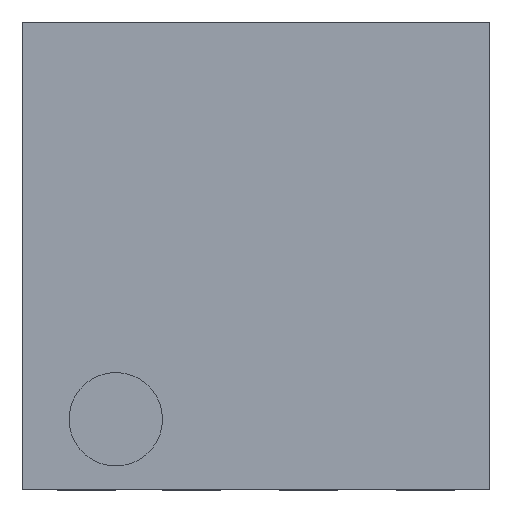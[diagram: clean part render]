
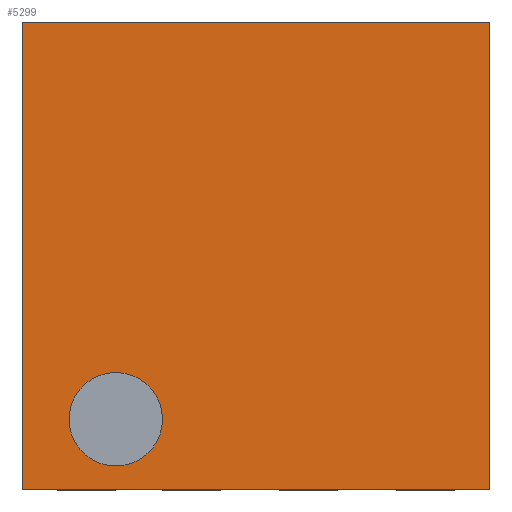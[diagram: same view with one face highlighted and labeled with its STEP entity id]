
A CAD part, top view. The second image highlights one B-rep face of the part: STEP entity #5299.
In plain terms, the highlighted planar face has unit normal (0, 0, 1).
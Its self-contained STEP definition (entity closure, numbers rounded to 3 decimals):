
#62 = DIRECTION ( 'NONE',  ( 0., 0., -1. ) ) ;
#123 = DIRECTION ( 'NONE',  ( 0., -1., 0. ) ) ;
#241 = AXIS2_PLACEMENT_3D ( 'NONE', #2401, #4164, #1179 ) ;
#656 = CIRCLE ( 'NONE', #851, 0.2 ) ;
#851 = AXIS2_PLACEMENT_3D ( 'NONE', #2602, #62, #3043 ) ;
#1037 = LINE ( 'NONE', #4053, #5502 ) ;
#1082 = CIRCLE ( 'NONE', #2119, 0.2 ) ;
#1179 = DIRECTION ( 'NONE',  ( 1., 0., 0. ) ) ;
#1229 = EDGE_LOOP ( 'NONE', ( #1951, #4814, #1411, #4426 ) ) ;
#1245 = VERTEX_POINT ( 'NONE', #1890 ) ;
#1411 = ORIENTED_EDGE ( 'NONE', *, *, #5270, .T. ) ;
#1438 = DIRECTION ( 'NONE',  ( 1., 0., 0. ) ) ;
#1493 = DIRECTION ( 'NONE',  ( 0., 1., 0. ) ) ;
#1682 = VERTEX_POINT ( 'NONE', #3417 ) ;
#1784 = CARTESIAN_POINT ( 'NONE',  ( -2., 1., 1.6 ) ) ;
#1890 = CARTESIAN_POINT ( 'NONE',  ( -1.4, 0.3, 1.6 ) ) ;
#1902 = EDGE_CURVE ( 'NONE', #5379, #2607, #2416, .T. ) ;
#1925 = EDGE_CURVE ( 'NONE', #4470, #5379, #1037, .T. ) ;
#1951 = ORIENTED_EDGE ( 'NONE', *, *, #1925, .T. ) ;
#1954 = ORIENTED_EDGE ( 'NONE', *, *, #2415, .T. ) ;
#1974 = CARTESIAN_POINT ( 'NONE',  ( 0., 2., 1.6 ) ) ;
#2009 = FACE_BOUND ( 'NONE', #2529, .T. ) ;
#2073 = CARTESIAN_POINT ( 'NONE',  ( 0., 0., 1.6 ) ) ;
#2119 = AXIS2_PLACEMENT_3D ( 'NONE', #2807, #2302, #3178 ) ;
#2220 = ORIENTED_EDGE ( 'NONE', *, *, #4265, .T. ) ;
#2302 = DIRECTION ( 'NONE',  ( 0., 0., -1. ) ) ;
#2401 = CARTESIAN_POINT ( 'NONE',  ( -1., 1., 1.6 ) ) ;
#2415 = EDGE_CURVE ( 'NONE', #1245, #1682, #656, .T. ) ;
#2416 = LINE ( 'NONE', #3993, #3244 ) ;
#2421 = CARTESIAN_POINT ( 'NONE',  ( -1., 2., 1.6 ) ) ;
#2462 = LINE ( 'NONE', #1784, #3148 ) ;
#2529 = EDGE_LOOP ( 'NONE', ( #1954, #2220 ) ) ;
#2602 = CARTESIAN_POINT ( 'NONE',  ( -1.6, 0.3, 1.6 ) ) ;
#2607 = VERTEX_POINT ( 'NONE', #1974 ) ;
#2807 = CARTESIAN_POINT ( 'NONE',  ( -1.6, 0.3, 1.6 ) ) ;
#2822 = CARTESIAN_POINT ( 'NONE',  ( -2., 2., 1.6 ) ) ;
#2885 = VECTOR ( 'NONE', #4979, 1000. ) ;
#3043 = DIRECTION ( 'NONE',  ( 1., 0., 0. ) ) ;
#3148 = VECTOR ( 'NONE', #123, 1000. ) ;
#3178 = DIRECTION ( 'NONE',  ( 1., 0., 0. ) ) ;
#3217 = LINE ( 'NONE', #2421, #2885 ) ;
#3244 = VECTOR ( 'NONE', #1493, 1000. ) ;
#3282 = CARTESIAN_POINT ( 'NONE',  ( -2., 0., 1.6 ) ) ;
#3417 = CARTESIAN_POINT ( 'NONE',  ( -1.8, 0.3, 1.6 ) ) ;
#3528 = EDGE_CURVE ( 'NONE', #4893, #4470, #2462, .T. ) ;
#3993 = CARTESIAN_POINT ( 'NONE',  ( 0., 1., 1.6 ) ) ;
#4053 = CARTESIAN_POINT ( 'NONE',  ( -1., 0., 1.6 ) ) ;
#4164 = DIRECTION ( 'NONE',  ( 0., 0., 1. ) ) ;
#4183 = PLANE ( 'NONE',  #241 ) ;
#4265 = EDGE_CURVE ( 'NONE', #1682, #1245, #1082, .T. ) ;
#4426 = ORIENTED_EDGE ( 'NONE', *, *, #3528, .T. ) ;
#4470 = VERTEX_POINT ( 'NONE', #3282 ) ;
#4814 = ORIENTED_EDGE ( 'NONE', *, *, #1902, .T. ) ;
#4893 = VERTEX_POINT ( 'NONE', #2822 ) ;
#4979 = DIRECTION ( 'NONE',  ( -1., 0., 0. ) ) ;
#5270 = EDGE_CURVE ( 'NONE', #2607, #4893, #3217, .T. ) ;
#5299 = ADVANCED_FACE ( 'NONE', ( #2009, #5411 ), #4183, .T. ) ;
#5379 = VERTEX_POINT ( 'NONE', #2073 ) ;
#5411 = FACE_OUTER_BOUND ( 'NONE', #1229, .T. ) ;
#5502 = VECTOR ( 'NONE', #1438, 1000. ) ;
